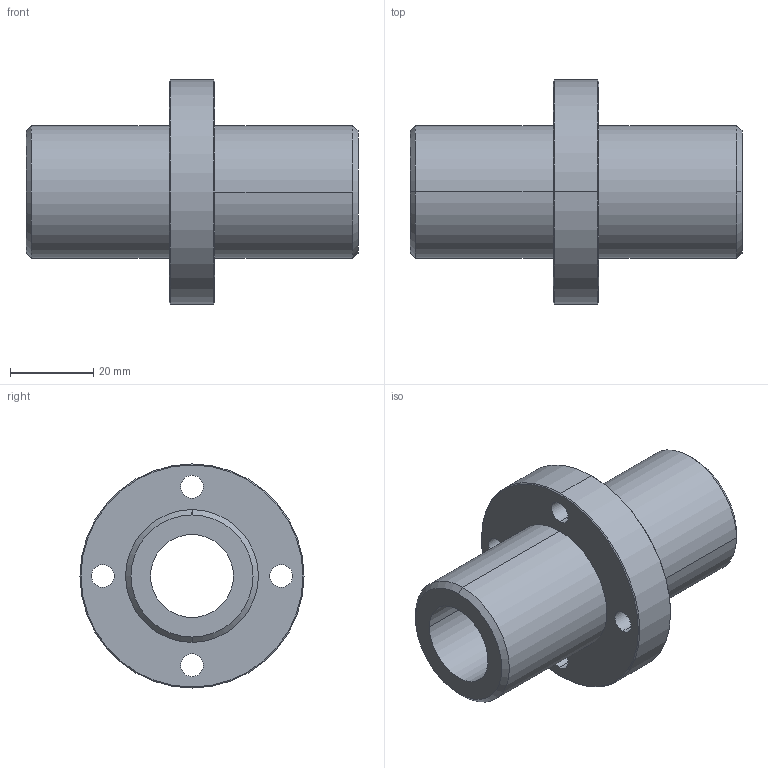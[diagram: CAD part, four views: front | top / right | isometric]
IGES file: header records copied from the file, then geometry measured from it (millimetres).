
Start section: 3D InterOp IGES (Version 21 0 1), Spatial Corp. Copyright (c) 1999-2007.
Global section: file name: CFPJR20.igs; native system: Spatial Corp.; preprocessor: 3D InterOp GENERIC/IGES 3.0; author: Noname; organization: Noname; date: 20220324.131654; units: millimetre
Bounding box: 80 x 54 x 54 mm (x, y, z)
Surface area: 18367.8 mm2 (no closed solid volume)
Topology: 0 solids, 0 shells, 40 faces, 180 edges, 180 vertices
Faces by surface type: revolution 32, extrusion 8
